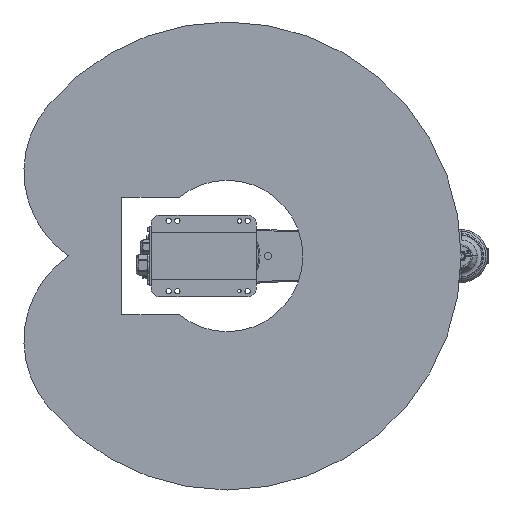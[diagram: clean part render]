
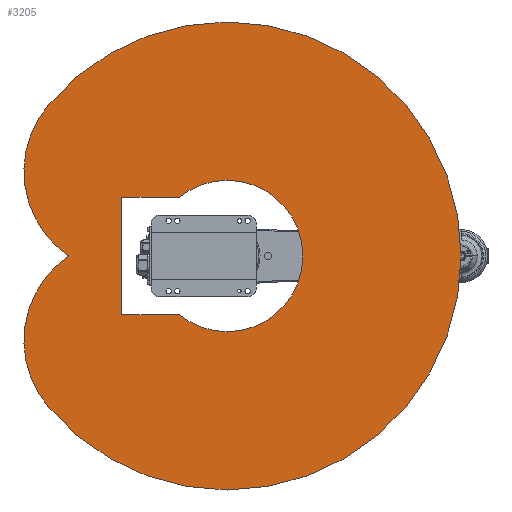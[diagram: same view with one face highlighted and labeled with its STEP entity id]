
A CAD part, front view. The second image highlights one B-rep face of the part: STEP entity #3205.
In plain terms, the highlighted planar face has unit normal (0, -1, 0).
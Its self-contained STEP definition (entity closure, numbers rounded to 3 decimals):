
#841 = CARTESIAN_POINT ( 'NONE',  ( 180., 0., 100.376 ) ) ;
#1107 = CARTESIAN_POINT ( 'NONE',  ( 270.889, 0., 0. ) ) ;
#2142 = AXIS2_PLACEMENT_3D ( 'NONE', #46929, #65655, #47665 ) ;
#2360 = EDGE_CURVE ( 'NONE', #13023, #5670, #15584, .T. ) ;
#3205 = ADVANCED_FACE ( 'NONE', ( #51118, #3816 ), #63390, .T. ) ;
#3661 = CARTESIAN_POINT ( 'NONE',  ( 81.648, 0., 100.376 ) ) ;
#3816 = FACE_BOUND ( 'NONE', #59085, .T. ) ;
#4688 = DIRECTION ( 'NONE',  ( 1., 0., 0. ) ) ;
#5045 = CARTESIAN_POINT ( 'NONE',  ( 306.418, 0., 257.115 ) ) ;
#5475 = CIRCLE ( 'NONE', #54200, 129.39 ) ;
#5538 = VECTOR ( 'NONE', #55904, 1000. ) ;
#5637 = CARTESIAN_POINT ( 'NONE',  ( 0., 0., -129.39 ) ) ;
#5670 = VERTEX_POINT ( 'NONE', #41109 ) ;
#5754 = AXIS2_PLACEMENT_3D ( 'NONE', #28698, #69587, #6198 ) ;
#6198 = DIRECTION ( 'NONE',  ( 0., 0., 1. ) ) ;
#6951 = CIRCLE ( 'NONE', #9402, 129.39 ) ;
#8584 = EDGE_CURVE ( 'NONE', #59386, #22213, #18297, .T. ) ;
#9256 = DIRECTION ( 'NONE',  ( 0., 0., 1. ) ) ;
#9402 = AXIS2_PLACEMENT_3D ( 'NONE', #15781, #40511, #45068 ) ;
#9884 = ORIENTED_EDGE ( 'NONE', *, *, #36669, .T. ) ;
#10163 = DIRECTION ( 'NONE',  ( 0., 0., 1. ) ) ;
#10224 = AXIS2_PLACEMENT_3D ( 'NONE', #11408, #22478, #62545 ) ;
#11408 = CARTESIAN_POINT ( 'NONE',  ( 172.36, 0., -144.627 ) ) ;
#11694 = CIRCLE ( 'NONE', #54274, 400. ) ;
#13023 = VERTEX_POINT ( 'NONE', #15968 ) ;
#14393 = CARTESIAN_POINT ( 'NONE',  ( 180., 0., -100.376 ) ) ;
#15584 = CIRCLE ( 'NONE', #2142, 400. ) ;
#15781 = CARTESIAN_POINT ( 'NONE',  ( 0., 0., 0. ) ) ;
#15816 = VERTEX_POINT ( 'NONE', #5637 ) ;
#15968 = CARTESIAN_POINT ( 'NONE',  ( 0., 0., -400. ) ) ;
#16864 = EDGE_CURVE ( 'NONE', #37215, #71116, #62865, .T. ) ;
#17193 = CARTESIAN_POINT ( 'NONE',  ( 306.418, 0., -257.115 ) ) ;
#17813 = CARTESIAN_POINT ( 'NONE',  ( 0., 0., 0. ) ) ;
#18297 = LINE ( 'NONE', #42270, #67267 ) ;
#22213 = VERTEX_POINT ( 'NONE', #38053 ) ;
#22478 = DIRECTION ( 'NONE',  ( 0., 1., 0. ) ) ;
#22672 = ORIENTED_EDGE ( 'NONE', *, *, #26992, .T. ) ;
#24483 = AXIS2_PLACEMENT_3D ( 'NONE', #39678, #73680, #56483 ) ;
#26227 = ORIENTED_EDGE ( 'NONE', *, *, #16864, .T. ) ;
#26350 = CARTESIAN_POINT ( 'NONE',  ( 0., 0., 0. ) ) ;
#26924 = ORIENTED_EDGE ( 'NONE', *, *, #8584, .T. ) ;
#26992 = EDGE_CURVE ( 'NONE', #15816, #37215, #6951, .T. ) ;
#27496 = VERTEX_POINT ( 'NONE', #1107 ) ;
#27920 = CARTESIAN_POINT ( 'NONE',  ( 180., 0., -100.376 ) ) ;
#28672 = VERTEX_POINT ( 'NONE', #5045 ) ;
#28698 = CARTESIAN_POINT ( 'NONE',  ( 172.36, 0., 144.627 ) ) ;
#28948 = VERTEX_POINT ( 'NONE', #17193 ) ;
#30815 = EDGE_CURVE ( 'NONE', #71116, #69126, #74542, .T. ) ;
#31716 = VECTOR ( 'NONE', #4688, 1000. ) ;
#34062 = ORIENTED_EDGE ( 'NONE', *, *, #67783, .T. ) ;
#35039 = CIRCLE ( 'NONE', #44738, 400. ) ;
#35278 = EDGE_CURVE ( 'NONE', #27496, #28948, #69980, .T. ) ;
#36669 = EDGE_CURVE ( 'NONE', #22213, #15816, #5475, .T. ) ;
#37215 = VERTEX_POINT ( 'NONE', #62977 ) ;
#37497 = DIRECTION ( 'NONE',  ( 0., 1., 0. ) ) ;
#38053 = CARTESIAN_POINT ( 'NONE',  ( 81.648, 0., -100.376 ) ) ;
#38948 = EDGE_CURVE ( 'NONE', #28672, #27496, #52023, .T. ) ;
#39149 = DIRECTION ( 'NONE',  ( 0., 1., 0. ) ) ;
#39286 = EDGE_CURVE ( 'NONE', #5670, #28672, #35039, .T. ) ;
#39678 = CARTESIAN_POINT ( 'NONE',  ( 172.36, 0., 0. ) ) ;
#39903 = CARTESIAN_POINT ( 'NONE',  ( 0., 0., 0. ) ) ;
#40511 = DIRECTION ( 'NONE',  ( 0., 1., 0. ) ) ;
#41109 = CARTESIAN_POINT ( 'NONE',  ( 0., 0., 400. ) ) ;
#42270 = CARTESIAN_POINT ( 'NONE',  ( 81.648, 0., -100.376 ) ) ;
#43294 = AXIS2_PLACEMENT_3D ( 'NONE', #26350, #44613, #62221 ) ;
#43730 = ORIENTED_EDGE ( 'NONE', *, *, #38948, .F. ) ;
#44613 = DIRECTION ( 'NONE',  ( 0., 1., 0. ) ) ;
#44738 = AXIS2_PLACEMENT_3D ( 'NONE', #17813, #66149, #57486 ) ;
#45068 = DIRECTION ( 'NONE',  ( 0., 0., 1. ) ) ;
#45488 = ORIENTED_EDGE ( 'NONE', *, *, #54967, .F. ) ;
#45899 = CARTESIAN_POINT ( 'NONE',  ( 180., 0., 100.376 ) ) ;
#46929 = CARTESIAN_POINT ( 'NONE',  ( 0., 0., 0. ) ) ;
#47665 = DIRECTION ( 'NONE',  ( 0., 0., 1. ) ) ;
#47749 = ORIENTED_EDGE ( 'NONE', *, *, #2360, .F. ) ;
#51118 = FACE_OUTER_BOUND ( 'NONE', #74270, .T. ) ;
#52023 = CIRCLE ( 'NONE', #5754, 175. ) ;
#54200 = AXIS2_PLACEMENT_3D ( 'NONE', #72981, #37497, #9256 ) ;
#54274 = AXIS2_PLACEMENT_3D ( 'NONE', #39903, #39149, #10163 ) ;
#54967 = EDGE_CURVE ( 'NONE', #28948, #13023, #11694, .T. ) ;
#55904 = DIRECTION ( 'NONE',  ( 0., 0., -1. ) ) ;
#56483 = DIRECTION ( 'NONE',  ( 0., 0., -1. ) ) ;
#57486 = DIRECTION ( 'NONE',  ( 0., 0., 1. ) ) ;
#59085 = EDGE_LOOP ( 'NONE', ( #26924, #9884, #22672, #26227, #73008, #34062 ) ) ;
#59386 = VERTEX_POINT ( 'NONE', #27920 ) ;
#62221 = DIRECTION ( 'NONE',  ( 0., 0., 1. ) ) ;
#62545 = DIRECTION ( 'NONE',  ( 0., 0., -1. ) ) ;
#62865 = CIRCLE ( 'NONE', #43294, 129.39 ) ;
#62977 = CARTESIAN_POINT ( 'NONE',  ( 0., 0., 129.39 ) ) ;
#63390 = PLANE ( 'NONE',  #24483 ) ;
#65655 = DIRECTION ( 'NONE',  ( 0., 1., 0. ) ) ;
#66128 = ORIENTED_EDGE ( 'NONE', *, *, #35278, .F. ) ;
#66149 = DIRECTION ( 'NONE',  ( 0., 1., 0. ) ) ;
#67267 = VECTOR ( 'NONE', #72066, 1000. ) ;
#67568 = ORIENTED_EDGE ( 'NONE', *, *, #39286, .F. ) ;
#67783 = EDGE_CURVE ( 'NONE', #69126, #59386, #73113, .T. ) ;
#69126 = VERTEX_POINT ( 'NONE', #841 ) ;
#69587 = DIRECTION ( 'NONE',  ( 0., 1., 0. ) ) ;
#69980 = CIRCLE ( 'NONE', #10224, 175. ) ;
#71116 = VERTEX_POINT ( 'NONE', #3661 ) ;
#72066 = DIRECTION ( 'NONE',  ( -1., 0., 0. ) ) ;
#72981 = CARTESIAN_POINT ( 'NONE',  ( 0., 0., 0. ) ) ;
#73008 = ORIENTED_EDGE ( 'NONE', *, *, #30815, .T. ) ;
#73113 = LINE ( 'NONE', #14393, #5538 ) ;
#73680 = DIRECTION ( 'NONE',  ( 0., -1., 0. ) ) ;
#74270 = EDGE_LOOP ( 'NONE', ( #66128, #43730, #67568, #47749, #45488 ) ) ;
#74542 = LINE ( 'NONE', #45899, #31716 ) ;
